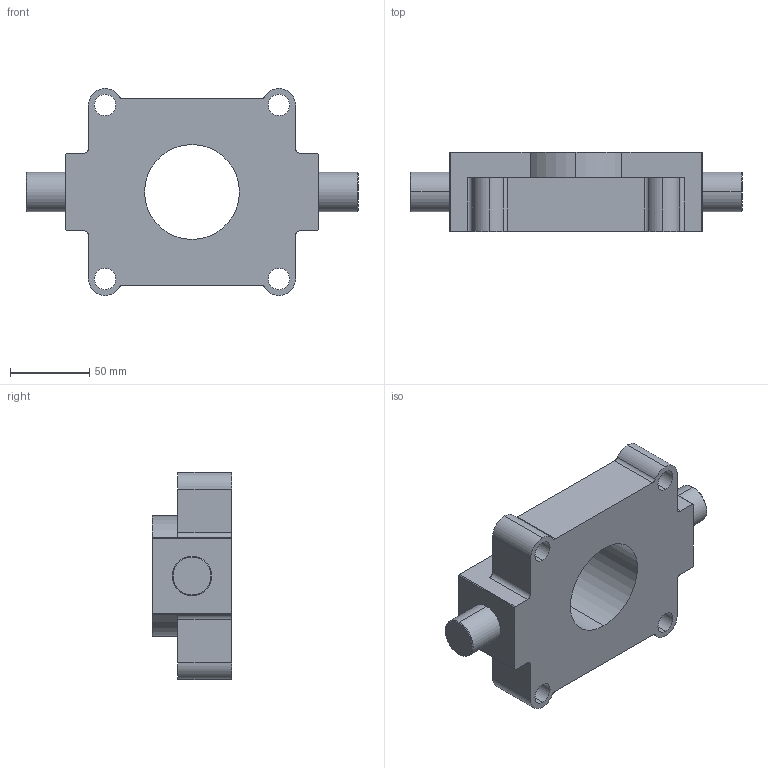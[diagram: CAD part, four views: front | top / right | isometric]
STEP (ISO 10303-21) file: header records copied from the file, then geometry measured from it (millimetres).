
FILE_DESCRIPTION (( 'STEP AP214' ), '1' );
FILE_NAME ('SZI-125.STEP', '2013-09-20T10:47:42', ( '' ), ( '' ), 'SwSTEP 2.0', 'SolidWorks 2009', '' );
FILE_SCHEMA (( 'AUTOMOTIVE_DESIGN' ));
Length unit declared in the file: millimetre
Products named in the file (1): SZI-125
Bounding box: 210 x 50 x 131 mm (x, y, z)
Volume: 593023.8 mm3; surface area: 72971.2 mm2
Topology: 1 solids, 1 shells, 57 faces, 155 edges, 102 vertices
Faces by surface type: cylinder 31, plane 22, cone 4
Entity records: 1877 total; most frequent: DIRECTION 337, CARTESIAN_POINT 315, ORIENTED_EDGE 310, EDGE_CURVE 155, AXIS2_PLACEMENT_3D 124, VERTEX_POINT 102, VECTOR 89, LINE 89
